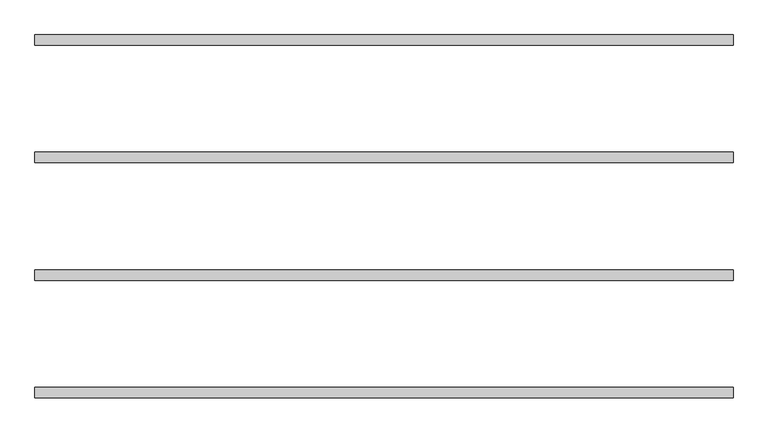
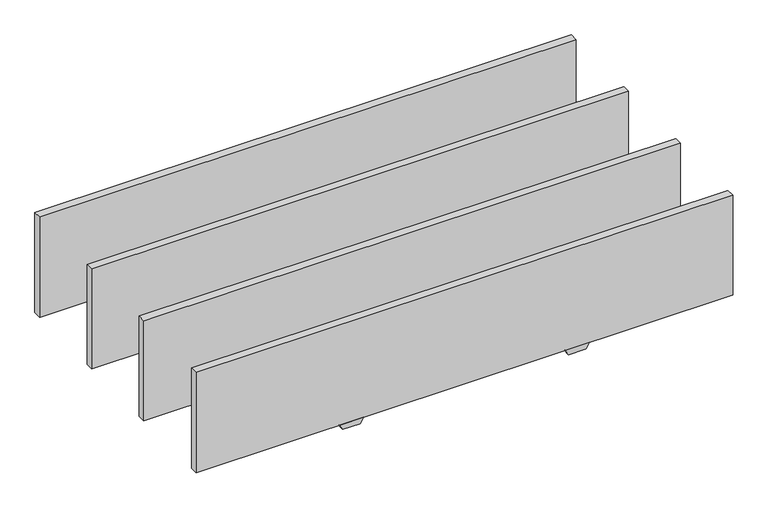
"""IFC4 building model written with IfcOpenShell, lengths in millimetres: proxy geometry."""

from ifc_helpers import new_model, si_unit, frame, origin, origin_with_axes, place, context, project, spatial, polyline, outline, extrude, source, transform, mapped, element, save


def specialty_equipment_4f9f5038(model_context):
    return source(origin(), model_context, "Body", "SweptSolid", [
        extrude(outline(polyline([(0.0, 227.0125), (-12.7, 234.3448484), (-12.7, 273.6551516), (0.0, 280.9875), (0.0, 227.0125)])), frame((0.0, 600.59951, 0.0), z_axis=(0.0, 1.0, 0.0), x_axis=(0.0, 0.0, 1.0)), (0.0, 0.0, 1.0), 18.00098),
        extrude(outline(polyline([(0.0, -280.9875), (-12.7, -273.6551516), (-12.7, -234.3448484), (0.0, -227.0125), (0.0, -280.9875)])), frame((0.0, 600.59951, 0.0), z_axis=(0.0, 1.0, 0.0), x_axis=(0.0, 0.0, 1.0)), (0.0, 0.0, 1.0), 18.00098),
        extrude(outline(polyline([(-603.25, 600.59951), (-603.25, 618.60049), (603.25, 618.60049), (603.25, 600.59951), (-603.25, 600.59951)])), origin_with_axes(), (0.0, 0.0, 1.0), 238.125),
        extrude(outline(polyline([(0.0, 227.0125), (-12.7, 234.3448484), (-12.7, 273.6551516), (0.0, 280.9875), (0.0, 227.0125)])), frame((0.0, 397.39951, 0.0), z_axis=(0.0, 1.0, 0.0), x_axis=(0.0, 0.0, 1.0)), (0.0, 0.0, 1.0), 18.00098),
        extrude(outline(polyline([(0.0, -280.9875), (-12.7, -273.6551516), (-12.7, -234.3448484), (0.0, -227.0125), (0.0, -280.9875)])), frame((0.0, 397.39951, 0.0), z_axis=(0.0, 1.0, 0.0), x_axis=(0.0, 0.0, 1.0)), (0.0, 0.0, 1.0), 18.00098),
        extrude(outline(polyline([(-603.25, 397.39951), (-603.25, 415.40049), (603.25, 415.40049), (603.25, 397.39951), (-603.25, 397.39951)])), origin_with_axes(), (0.0, 0.0, 1.0), 238.125),
        extrude(outline(polyline([(0.0, 227.0125), (-12.7, 234.3448484), (-12.7, 273.6551516), (0.0, 280.9875), (0.0, 227.0125)])), frame((0.0, 194.19951, 0.0), z_axis=(0.0, 1.0, 0.0), x_axis=(0.0, 0.0, 1.0)), (0.0, 0.0, 1.0), 18.00098),
        extrude(outline(polyline([(0.0, -280.9875), (-12.7, -273.6551516), (-12.7, -234.3448484), (0.0, -227.0125), (0.0, -280.9875)])), frame((0.0, 194.19951, 0.0), z_axis=(0.0, 1.0, 0.0), x_axis=(0.0, 0.0, 1.0)), (0.0, 0.0, 1.0), 18.00098),
        extrude(outline(polyline([(-603.25, 194.19951), (-603.25, 212.20049), (603.25, 212.20049), (603.25, 194.19951), (-603.25, 194.19951)])), origin_with_axes(), (0.0, 0.0, 1.0), 238.125),
        extrude(outline(polyline([(0.0, 227.0125), (-12.7, 234.3448484), (-12.7, 273.6551516), (0.0, 280.9875), (0.0, 227.0125)])), frame((0.0, -9.00049, 0.0), z_axis=(0.0, 1.0, 0.0), x_axis=(0.0, 0.0, 1.0)), (0.0, 0.0, 1.0), 18.00098),
        extrude(outline(polyline([(0.0, -280.9875), (-12.7, -273.6551516), (-12.7, -234.3448484), (0.0, -227.0125), (0.0, -280.9875)])), frame((0.0, -9.00049, 0.0), z_axis=(0.0, 1.0, 0.0), x_axis=(0.0, 0.0, 1.0)), (0.0, 0.0, 1.0), 18.00098),
        extrude(outline(polyline([(-603.25, -9.00049), (-603.25, 9.00049), (603.25, 9.00049), (603.25, -9.00049), (-603.25, -9.00049)])), origin_with_axes(), (0.0, 0.0, 1.0), 238.125),
    ])


if __name__ == "__main__":
    model = new_model("IFC4")
    model_context = context("Model", 3, world=origin())
    ifc_project = project(units=[si_unit("LENGTHUNIT", "METRE", prefix="MILLI")], contexts=[model_context])
    site = spatial("IfcSite", under=ifc_project)
    building = spatial("IfcBuilding", under=site)
    placement = place(None, origin())
    specialty_equipment_shape = specialty_equipment_4f9f5038(model_context)
    element("IfcBuildingElementProxy", 1, Name="SE_TIMBER BAFFLE_MULTI-SYSTEM_FB_TURF : 47.5\" - GRIDLOCK", ObjectType="SE_TIMBER BAFFLE_MULTI-SYSTEM_FB_TURF : 47.5\" - GRIDLOCK", at=placement, inside=building, context=model_context, shape_type="MappedRepresentation", body=[
        mapped(specialty_equipment_shape, transform((0.0, 0.0, 0.0), x_axis=(1.0, 0.0, 0.0), y_axis=(0.0, 1.0, 0.0), z_axis=(0.0, 0.0, 1.0))),
    ])
    save(model, "model.ifc")
